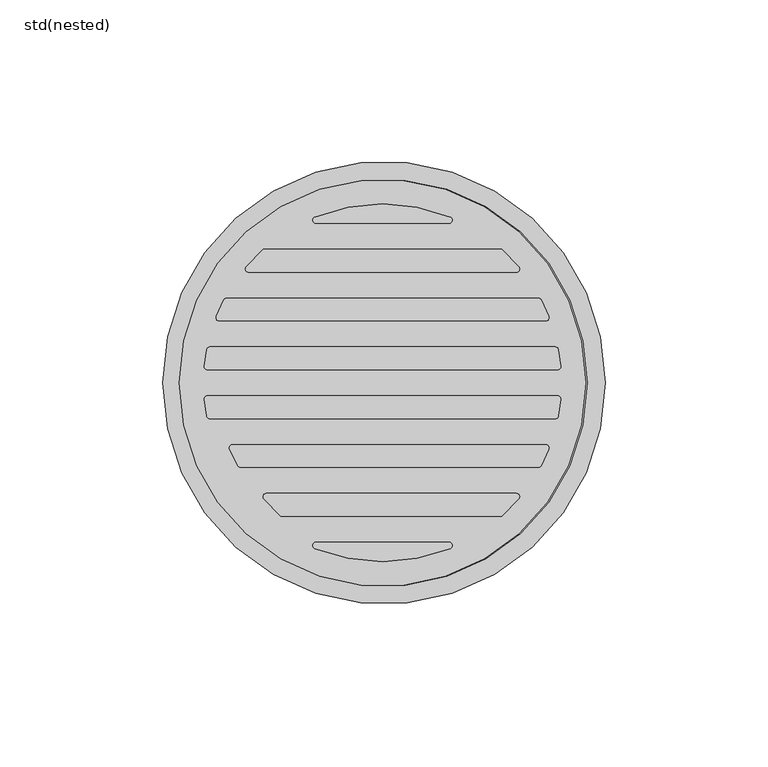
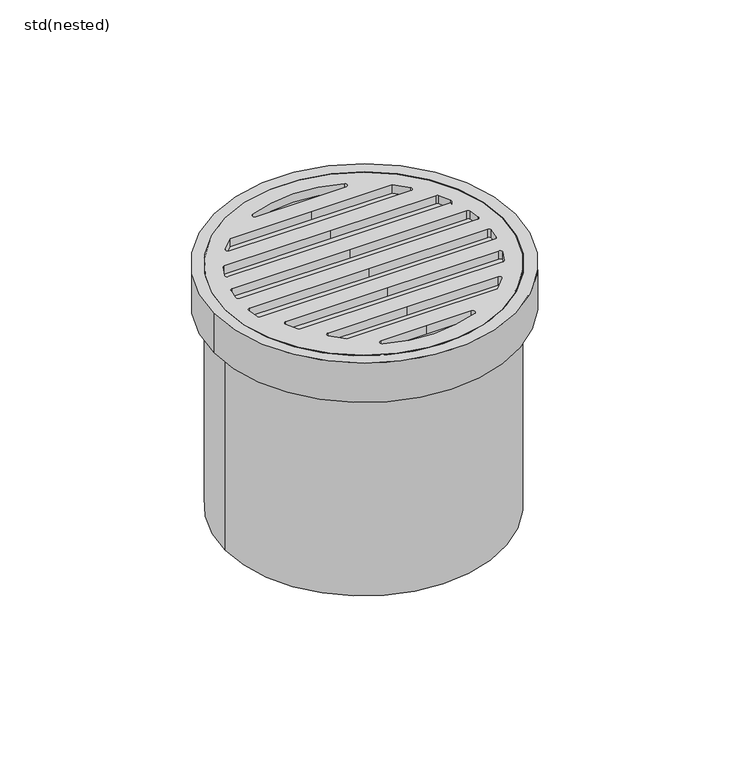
"""IFC4 building model written with IfcOpenShell, lengths in millimetres: sanitary terminal geometry, ZZZ_do_not_use_PF_UN_Top section with grating_ACO : std(nested)."""

from ifc_helpers import new_model, si_unit, point, frame, frame_2d, origin, origin_with_axes, origin_2d, place, context, project, spatial, polyline, circle_curve, trimmed, segment, composite_curve, outline, extrude, source, transform, mapped, element, save
from ifc_brep_helpers import plane_surface, cylinder_surface, revolved_surface, advanced_brep


def std_nested_ec2660e4(model_context):
    return source(origin(), model_context, "Body", "SolidModel", [
        advanced_brep(
        [(-62.5, 0.0, 0.0), (62.5, 0.0, 0.0), (36.6606056, -41.0, 0.0), (0.0, -41.0, 0.0), (-31.2370559, -41.0, 0.0), (-36.459735, -35.6481481, 0.0), (-35.6982207, -34.0, 0.0), (0.0, -34.0, 0.0), (41.1217704, -34.0, 0.0), (41.8832847, -35.6481481, 0.0), (-20.3960781, -49.0, 0.0), (0.0, -49.0, 0.0), (20.3960781, -49.0, 0.0), (20.7737832, -50.9259259, 0.0), (-20.7737832, -50.9259259, 0.0), (47.8643918, -26.0, 0.0), (0.0, -26.0, 0.0), (-43.5831046, -26.0, 0.0), (-44.450529, -25.4975691, 0.0), (-47.0095192, -20.3980553, 0.0), (-46.0921578, -19.0, 0.0), (0.0, -19.0, 0.0), (50.1597448, -19.0, 0.0), (51.088629, -20.3703704, 0.0), (48.7507694, -25.462963, 0.0), (-53.7680202, -4.0, 0.0), (0.0, -4.0, 0.0), (53.7680202, -4.0, 0.0), (54.7637243, -5.0925926, 0.0), (54.0487003, -10.1851852, 0.0), (53.0659966, -11.0, 0.0), (0.0, -11.0, 0.0), (-53.0659966, -11.0, 0.0), (-54.0487003, -10.1851852, 0.0), (-54.7637243, -5.0925926, 0.0), (-47.8643918, 26.0, 0.0), (0.0, 26.0, 0.0), (47.8643918, 26.0, 0.0), (48.7507694, 25.462963, 0.0), (51.088629, 20.3703704, 0.0), (50.1597448, 19.0, 0.0), (0.0, 19.0, 0.0), (-50.1597448, 19.0, 0.0), (-51.088629, 20.3703704, 0.0), (-48.7507694, 25.462963, 0.0), (-53.0659966, 11.0, 0.0), (0.0, 11.0, 0.0), (53.0659966, 11.0, 0.0), (54.0487003, 10.1851852, 0.0), (54.7637243, 5.0925926, 0.0), (53.7680202, 4.0, 0.0), (0.0, 4.0, 0.0), (-53.7680202, 4.0, 0.0), (-54.7637243, 5.0925926, 0.0), (-54.0487003, 10.1851852, 0.0), (-36.6606056, 41.0, 0.0), (0.0, 41.0, 0.0), (36.6606056, 41.0, 0.0), (41.8832847, 35.6481481, 0.0), (41.1217704, 34.0, 0.0), (0.0, 34.0, 0.0), (-41.1217704, 34.0, 0.0), (-41.8832847, 35.6481481, 0.0), (20.3960781, 49.0, 0.0), (0.0, 49.0, 0.0), (-20.3960781, 49.0, 0.0), (-20.7737832, 50.9259259, 0.0), (20.7737832, 50.9259259, 0.0), (-62.5, 0.0, -18.9264101), (62.5, 0.0, -18.9264101), (0.0, -41.0, -3.9337109), (36.6606056, -41.0, -3.9337109), (41.8832847, -35.6481481, -3.9337109), (41.1217704, -34.0, -3.9337109), (0.0, -34.0, -3.9337109), (-35.6982207, -34.0, -3.9337109), (-36.459735, -35.6481481, -3.9337109), (-31.2370559, -41.0, -3.9337109), (0.0, -49.0, -3.9337109), (-20.3960781, -49.0, -3.9337109), (-20.7737832, -50.9259259, -3.9337109), (20.7737832, -50.9259259, -3.9337109), (20.3960781, -49.0, -3.9337109), (0.0, -26.0, -3.9337109), (47.8643918, -26.0, -3.9337109), (48.7507694, -25.462963, -3.9337109), (51.088629, -20.3703704, -3.9337109), (50.1597448, -19.0, -3.9337109), (0.0, -19.0, -3.9337109), (-46.0921578, -19.0, -3.9337109), (-47.0095192, -20.3980553, -3.9337109), (-44.450529, -25.4975691, -3.9337109), (-43.5831046, -26.0, -3.9337109), (0.0, -4.0, -3.9337109), (-53.7680202, -4.0, -3.9337109), (-54.7637243, -5.0925926, -3.9337109), (-54.0487003, -10.1851852, -3.9337109), (-53.0659966, -11.0, -3.9337109), (0.0, -11.0, -3.9337109), (53.0659966, -11.0, -3.9337109), (54.0487003, -10.1851852, -3.9337109), (54.7637243, -5.0925926, -3.9337109), (53.7680202, -4.0, -3.9337109), (0.0, 26.0, -3.9337109), (-47.8643918, 26.0, -3.9337109), (-48.7507694, 25.462963, -3.9337109), (-51.088629, 20.3703704, -3.9337109), (-50.1597448, 19.0, -3.9337109), (0.0, 19.0, -3.9337109), (50.1597448, 19.0, -3.9337109), (51.088629, 20.3703704, -3.9337109), (48.7507694, 25.462963, -3.9337109), (47.8643918, 26.0, -3.9337109), (0.0, 11.0, -3.9337109), (-53.0659966, 11.0, -3.9337109), (-54.0487003, 10.1851852, -3.9337109), (-54.7637243, 5.0925926, -3.9337109), (-53.7680202, 4.0, -3.9337109), (0.0, 4.0, -3.9337109), (53.7680202, 4.0, -3.9337109), (54.7637243, 5.0925926, -3.9337109), (54.0487003, 10.1851852, -3.9337109), (53.0659966, 11.0, -3.9337109), (0.0, 41.0, -3.9337109), (-36.6606056, 41.0, -3.9337109), (-41.8832847, 35.6481481, -3.9337109), (-41.1217704, 34.0, -3.9337109), (0.0, 34.0, -3.9337109), (41.1217704, 34.0, -3.9337109), (41.8832847, 35.6481481, -3.9337109), (36.6606056, 41.0, -3.9337109), (0.0, 49.0, -3.9337109), (20.3960781, 49.0, -3.9337109), (20.7737832, 50.9259259, -3.9337109), (-20.7737832, 50.9259259, -3.9337109), (-20.3960781, 49.0, -3.9337109)],
        [
            (0, 1, circle_curve(origin_with_axes(), 62.5)),
            (1, 0, circle_curve(origin_with_axes(), 62.5)),
            (2, 3),
            (3, 4),
            (4, 5, circle_curve(frame((5.4235497, 0.0, 0.0), z_axis=(0.0, 0.0, -1.0), x_axis=(1.0, 0.0, 0.0)), 55.0)),
            (5, 6, circle_curve(frame((-35.6982207, -35.0, 0.0), z_axis=(0.0, 0.0, -1.0), x_axis=(1.0, 0.0, 0.0)), 1.0)),
            (6, 7),
            (7, 8),
            (8, 9, circle_curve(frame((41.1217704, -35.0, 0.0), z_axis=(0.0, 0.0, -1.0), x_axis=(1.0, 0.0, 0.0)), 1.0)),
            (9, 2, circle_curve(frame((0.0, 0.0, 0.0), z_axis=(0.0, 0.0, -1.0), x_axis=(1.0, 0.0, 0.0)), 55.0)),
            (10, 11),
            (11, 12),
            (12, 13, circle_curve(frame((20.3960781, -50.0, 0.0), z_axis=(0.0, 0.0, -1.0), x_axis=(1.0, 0.0, 0.0)), 1.0)),
            (13, 14, circle_curve(frame((0.0, 0.0, 0.0), z_axis=(0.0, 0.0, -1.0), x_axis=(1.0, 0.0, 0.0)), 55.0)),
            (14, 10, circle_curve(frame((-20.3960781, -50.0, 0.0), z_axis=(0.0, 0.0, -1.0), x_axis=(1.0, 0.0, 0.0)), 1.0)),
            (15, 16),
            (16, 17),
            (17, 18, circle_curve(frame((-43.5831046, -25.0, 0.0), z_axis=(0.0, 0.0, -1.0), x_axis=(1.0, 0.0, 0.0)), 1.0)),
            (18, 19, circle_curve(frame((0.0, 0.0, 0.0), z_axis=(0.0, 0.0, -1.0), x_axis=(1.0, 0.0, 0.0)), 51.2442734)),
            (19, 20, circle_curve(frame((-46.0921578, -20.0, 0.0), z_axis=(0.0, 0.0, -1.0), x_axis=(1.0, 0.0, 0.0)), 1.0)),
            (20, 21),
            (21, 22),
            (22, 23, circle_curve(frame((50.1597448, -20.0, 0.0), z_axis=(0.0, 0.0, -1.0), x_axis=(1.0, 0.0, 0.0)), 1.0)),
            (23, 24, circle_curve(frame((0.0, 0.0, 0.0), z_axis=(0.0, 0.0, -1.0), x_axis=(1.0, 0.0, 0.0)), 55.0)),
            (24, 15, circle_curve(frame((47.8643918, -25.0, 0.0), z_axis=(0.0, 0.0, -1.0), x_axis=(1.0, 0.0, 0.0)), 1.0)),
            (25, 26),
            (26, 27),
            (27, 28, circle_curve(frame((53.7680202, -5.0, 0.0), z_axis=(0.0, 0.0, -1.0), x_axis=(1.0, 0.0, 0.0)), 1.0)),
            (28, 29, circle_curve(frame((0.0, 0.0, 0.0), z_axis=(0.0, 0.0, -1.0), x_axis=(1.0, 0.0, 0.0)), 55.0)),
            (29, 30, circle_curve(frame((53.0659966, -10.0, 0.0), z_axis=(0.0, 0.0, -1.0), x_axis=(1.0, 0.0, 0.0)), 1.0)),
            (30, 31),
            (31, 32),
            (32, 33, circle_curve(frame((-53.0659966, -10.0, 0.0), z_axis=(0.0, 0.0, -1.0), x_axis=(1.0, 0.0, 0.0)), 1.0)),
            (33, 34, circle_curve(frame((0.0, 0.0, 0.0), z_axis=(0.0, 0.0, -1.0), x_axis=(1.0, 0.0, 0.0)), 55.0)),
            (34, 25, circle_curve(frame((-53.7680202, -5.0, 0.0), z_axis=(0.0, 0.0, -1.0), x_axis=(1.0, 0.0, 0.0)), 1.0)),
            (35, 36),
            (36, 37),
            (37, 38, circle_curve(frame((47.8643918, 25.0, 0.0), z_axis=(0.0, 0.0, -1.0), x_axis=(1.0, 0.0, 0.0)), 1.0)),
            (38, 39, circle_curve(frame((0.0, 0.0, 0.0), z_axis=(0.0, 0.0, -1.0), x_axis=(1.0, 0.0, 0.0)), 55.0)),
            (39, 40, circle_curve(frame((50.1597448, 20.0, 0.0), z_axis=(0.0, 0.0, -1.0), x_axis=(1.0, 0.0, 0.0)), 1.0)),
            (40, 41),
            (41, 42),
            (42, 43, circle_curve(frame((-50.1597448, 20.0, 0.0), z_axis=(0.0, 0.0, -1.0), x_axis=(1.0, 0.0, 0.0)), 1.0)),
            (43, 44, circle_curve(frame((0.0, 0.0, 0.0), z_axis=(0.0, 0.0, -1.0), x_axis=(1.0, 0.0, 0.0)), 55.0)),
            (44, 35, circle_curve(frame((-47.8643918, 25.0, 0.0), z_axis=(0.0, 0.0, -1.0), x_axis=(1.0, 0.0, 0.0)), 1.0)),
            (45, 46),
            (46, 47),
            (47, 48, circle_curve(frame((53.0659966, 10.0, 0.0), z_axis=(0.0, 0.0, -1.0), x_axis=(1.0, 0.0, 0.0)), 1.0)),
            (48, 49, circle_curve(frame((0.0, 0.0, 0.0), z_axis=(0.0, 0.0, -1.0), x_axis=(1.0, 0.0, 0.0)), 55.0)),
            (49, 50, circle_curve(frame((53.7680202, 5.0, 0.0), z_axis=(0.0, 0.0, -1.0), x_axis=(1.0, 0.0, 0.0)), 1.0)),
            (50, 51),
            (51, 52),
            (52, 53, circle_curve(frame((-53.7680202, 5.0, 0.0), z_axis=(0.0, 0.0, -1.0), x_axis=(1.0, 0.0, 0.0)), 1.0)),
            (53, 54, circle_curve(frame((0.0, 0.0, 0.0), z_axis=(0.0, 0.0, -1.0), x_axis=(1.0, 0.0, 0.0)), 55.0)),
            (54, 45, circle_curve(frame((-53.0659966, 10.0, 0.0), z_axis=(0.0, 0.0, -1.0), x_axis=(1.0, 0.0, 0.0)), 1.0)),
            (55, 56),
            (56, 57),
            (57, 58, circle_curve(frame((0.0, 0.0, 0.0), z_axis=(0.0, 0.0, -1.0), x_axis=(1.0, 0.0, 0.0)), 55.0)),
            (58, 59, circle_curve(frame((41.1217704, 35.0, 0.0), z_axis=(0.0, 0.0, -1.0), x_axis=(1.0, 0.0, 0.0)), 1.0)),
            (59, 60),
            (60, 61),
            (61, 62, circle_curve(frame((-41.1217704, 35.0, 0.0), z_axis=(0.0, 0.0, -1.0), x_axis=(1.0, 0.0, 0.0)), 1.0)),
            (62, 55, circle_curve(frame((0.0, 0.0, 0.0), z_axis=(0.0, 0.0, -1.0), x_axis=(1.0, 0.0, 0.0)), 55.0)),
            (63, 64),
            (64, 65),
            (65, 66, circle_curve(frame((-20.3960781, 50.0, 0.0), z_axis=(0.0, 0.0, -1.0), x_axis=(1.0, 0.0, 0.0)), 1.0)),
            (66, 67, circle_curve(frame((0.0, 0.0, 0.0), z_axis=(0.0, 0.0, -1.0), x_axis=(1.0, 0.0, 0.0)), 55.0)),
            (67, 63, circle_curve(frame((20.3960781, 50.0, 0.0), z_axis=(0.0, 0.0, -1.0), x_axis=(1.0, 0.0, 0.0)), 1.0)),
            (68, 69, circle_curve(frame((0.0, 0.0, -18.9264101), z_axis=(0.0, 0.0, -1.0), x_axis=(1.0, 0.0, 0.0)), 62.5)),
            (69, 68, circle_curve(frame((0.0, 0.0, -18.9264101), z_axis=(0.0, 0.0, -1.0), x_axis=(1.0, 0.0, 0.0)), 62.5)),
            (0, 68),
            (69, 1),
            (70, 71),
            (71, 72, circle_curve(frame((0.0, 0.0, -3.9337109), z_axis=(0.0, 0.0, 1.0), x_axis=(1.0, 0.0, 0.0)), 55.0)),
            (72, 73, circle_curve(frame((41.1217704, -35.0, -3.9337109), z_axis=(0.0, 0.0, 1.0), x_axis=(1.0, 0.0, 0.0)), 1.0)),
            (73, 74),
            (74, 75),
            (75, 76, circle_curve(frame((-35.6982207, -35.0, -3.9337109), z_axis=(0.0, 0.0, 1.0), x_axis=(1.0, 0.0, 0.0)), 1.0)),
            (76, 77, circle_curve(frame((5.4235497, 0.0, -3.9337109), z_axis=(0.0, 0.0, 1.0), x_axis=(1.0, 0.0, 0.0)), 55.0)),
            (77, 70),
            (78, 79),
            (79, 80, circle_curve(frame((-20.3960781, -50.0, -3.9337109), z_axis=(0.0, 0.0, 1.0), x_axis=(1.0, 0.0, 0.0)), 1.0)),
            (80, 81, circle_curve(frame((0.0, 0.0, -3.9337109), z_axis=(0.0, 0.0, 1.0), x_axis=(1.0, 0.0, 0.0)), 55.0)),
            (81, 82, circle_curve(frame((20.3960781, -50.0, -3.9337109), z_axis=(0.0, 0.0, 1.0), x_axis=(1.0, 0.0, 0.0)), 1.0)),
            (82, 78),
            (83, 84),
            (84, 85, circle_curve(frame((47.8643918, -25.0, -3.9337109), z_axis=(0.0, 0.0, 1.0), x_axis=(1.0, 0.0, 0.0)), 1.0)),
            (85, 86, circle_curve(frame((0.0, 0.0, -3.9337109), z_axis=(0.0, 0.0, 1.0), x_axis=(1.0, 0.0, 0.0)), 55.0)),
            (86, 87, circle_curve(frame((50.1597448, -20.0, -3.9337109), z_axis=(0.0, 0.0, 1.0), x_axis=(1.0, 0.0, 0.0)), 1.0)),
            (87, 88),
            (88, 89),
            (89, 90, circle_curve(frame((-46.0921578, -20.0, -3.9337109), z_axis=(0.0, 0.0, 1.0), x_axis=(1.0, 0.0, 0.0)), 1.0)),
            (90, 91, circle_curve(frame((0.0, 0.0, -3.9337109), z_axis=(0.0, 0.0, 1.0), x_axis=(1.0, 0.0, 0.0)), 51.2442734)),
            (91, 92, circle_curve(frame((-43.5831046, -25.0, -3.9337109), z_axis=(0.0, 0.0, 1.0), x_axis=(1.0, 0.0, 0.0)), 1.0)),
            (92, 83),
            (93, 94),
            (94, 95, circle_curve(frame((-53.7680202, -5.0, -3.9337109), z_axis=(0.0, 0.0, 1.0), x_axis=(1.0, 0.0, 0.0)), 1.0)),
            (95, 96, circle_curve(frame((0.0, 0.0, -3.9337109), z_axis=(0.0, 0.0, 1.0), x_axis=(1.0, 0.0, 0.0)), 55.0)),
            (96, 97, circle_curve(frame((-53.0659966, -10.0, -3.9337109), z_axis=(0.0, 0.0, 1.0), x_axis=(1.0, 0.0, 0.0)), 1.0)),
            (97, 98),
            (98, 99),
            (99, 100, circle_curve(frame((53.0659966, -10.0, -3.9337109), z_axis=(0.0, 0.0, 1.0), x_axis=(1.0, 0.0, 0.0)), 1.0)),
            (100, 101, circle_curve(frame((0.0, 0.0, -3.9337109), z_axis=(0.0, 0.0, 1.0), x_axis=(1.0, 0.0, 0.0)), 55.0)),
            (101, 102, circle_curve(frame((53.7680202, -5.0, -3.9337109), z_axis=(0.0, 0.0, 1.0), x_axis=(1.0, 0.0, 0.0)), 1.0)),
            (102, 93),
            (103, 104),
            (104, 105, circle_curve(frame((-47.8643918, 25.0, -3.9337109), z_axis=(0.0, 0.0, 1.0), x_axis=(1.0, 0.0, 0.0)), 1.0)),
            (105, 106, circle_curve(frame((0.0, 0.0, -3.9337109), z_axis=(0.0, 0.0, 1.0), x_axis=(1.0, 0.0, 0.0)), 55.0)),
            (106, 107, circle_curve(frame((-50.1597448, 20.0, -3.9337109), z_axis=(0.0, 0.0, 1.0), x_axis=(1.0, 0.0, 0.0)), 1.0)),
            (107, 108),
            (108, 109),
            (109, 110, circle_curve(frame((50.1597448, 20.0, -3.9337109), z_axis=(0.0, 0.0, 1.0), x_axis=(1.0, 0.0, 0.0)), 1.0)),
            (110, 111, circle_curve(frame((0.0, 0.0, -3.9337109), z_axis=(0.0, 0.0, 1.0), x_axis=(1.0, 0.0, 0.0)), 55.0)),
            (111, 112, circle_curve(frame((47.8643918, 25.0, -3.9337109), z_axis=(0.0, 0.0, 1.0), x_axis=(1.0, 0.0, 0.0)), 1.0)),
            (112, 103),
            (113, 114),
            (114, 115, circle_curve(frame((-53.0659966, 10.0, -3.9337109), z_axis=(0.0, 0.0, 1.0), x_axis=(1.0, 0.0, 0.0)), 1.0)),
            (115, 116, circle_curve(frame((0.0, 0.0, -3.9337109), z_axis=(0.0, 0.0, 1.0), x_axis=(1.0, 0.0, 0.0)), 55.0)),
            (116, 117, circle_curve(frame((-53.7680202, 5.0, -3.9337109), z_axis=(0.0, 0.0, 1.0), x_axis=(1.0, 0.0, 0.0)), 1.0)),
            (117, 118),
            (118, 119),
            (119, 120, circle_curve(frame((53.7680202, 5.0, -3.9337109), z_axis=(0.0, 0.0, 1.0), x_axis=(1.0, 0.0, 0.0)), 1.0)),
            (120, 121, circle_curve(frame((0.0, 0.0, -3.9337109), z_axis=(0.0, 0.0, 1.0), x_axis=(1.0, 0.0, 0.0)), 55.0)),
            (121, 122, circle_curve(frame((53.0659966, 10.0, -3.9337109), z_axis=(0.0, 0.0, 1.0), x_axis=(1.0, 0.0, 0.0)), 1.0)),
            (122, 113),
            (123, 124),
            (124, 125, circle_curve(frame((0.0, 0.0, -3.9337109), z_axis=(0.0, 0.0, 1.0), x_axis=(1.0, 0.0, 0.0)), 55.0)),
            (125, 126, circle_curve(frame((-41.1217704, 35.0, -3.9337109), z_axis=(0.0, 0.0, 1.0), x_axis=(1.0, 0.0, 0.0)), 1.0)),
            (126, 127),
            (127, 128),
            (128, 129, circle_curve(frame((41.1217704, 35.0, -3.9337109), z_axis=(0.0, 0.0, 1.0), x_axis=(1.0, 0.0, 0.0)), 1.0)),
            (129, 130, circle_curve(frame((0.0, 0.0, -3.9337109), z_axis=(0.0, 0.0, 1.0), x_axis=(1.0, 0.0, 0.0)), 55.0)),
            (130, 123),
            (131, 132),
            (132, 133, circle_curve(frame((20.3960781, 50.0, -3.9337109), z_axis=(0.0, 0.0, 1.0), x_axis=(1.0, 0.0, 0.0)), 1.0)),
            (133, 134, circle_curve(frame((0.0, 0.0, -3.9337109), z_axis=(0.0, 0.0, 1.0), x_axis=(1.0, 0.0, 0.0)), 55.0)),
            (134, 135, circle_curve(frame((-20.3960781, 50.0, -3.9337109), z_axis=(0.0, 0.0, 1.0), x_axis=(1.0, 0.0, 0.0)), 1.0)),
            (135, 131),
            (70, 3),
            (2, 71),
            (9, 72),
            (8, 73),
            (7, 74),
            (6, 75),
            (5, 76),
            (4, 77),
            (78, 11),
            (10, 79),
            (14, 80),
            (13, 81),
            (12, 82),
            (83, 16),
            (15, 84),
            (24, 85),
            (23, 86),
            (22, 87),
            (21, 88),
            (20, 89),
            (19, 90),
            (18, 91),
            (17, 92),
            (93, 26),
            (25, 94),
            (34, 95),
            (33, 96),
            (32, 97),
            (31, 98),
            (30, 99),
            (29, 100),
            (28, 101),
            (27, 102),
            (103, 36),
            (35, 104),
            (44, 105),
            (43, 106),
            (42, 107),
            (41, 108),
            (40, 109),
            (39, 110),
            (38, 111),
            (37, 112),
            (113, 46),
            (45, 114),
            (54, 115),
            (53, 116),
            (52, 117),
            (51, 118),
            (50, 119),
            (49, 120),
            (48, 121),
            (47, 122),
            (123, 56),
            (55, 124),
            (62, 125),
            (61, 126),
            (60, 127),
            (59, 128),
            (58, 129),
            (57, 130),
            (131, 64),
            (63, 132),
            (67, 133),
            (66, 134),
            (65, 135),
        ],
        [
            plane_surface(frame((62.5, 0.0, 0.0), z_axis=(0.0, 0.0, 1.0), x_axis=(0.0, 1.0, 0.0))),
            plane_surface(frame((62.5, 0.0, -18.9264101), z_axis=(0.0, 0.0, -1.0), x_axis=(0.0, -1.0, 0.0))),
            cylinder_surface(frame((0.0, 0.0, -18.9264101), z_axis=(0.0, 0.0, 1.0), x_axis=(1.0, 0.0, 0.0)), 62.5),
            plane_surface(frame((36.2767143, -41.0, -3.9337109), z_axis=(0.0, 0.0, 1.0), x_axis=(-1.0, 0.0, 0.0))),
            plane_surface(frame((0.0, -41.0, 0.0), z_axis=(0.0, 1.0, 0.0), x_axis=(0.0, 0.0, -1.0))),
            revolved_surface(polyline([(55.0, 0.0, 0.0), (55.0, 0.0, -3.9337109)]), (0.0, 0.0, -3.9337109), (0.0, 0.0, 1.0)),
            revolved_surface(polyline([(42.1217704, -35.0, 0.0), (42.1217704, -35.0, -3.9337109)]), (41.1217704, -35.0, -3.9337109), (0.0, 0.0, 1.0)),
            plane_surface(frame((41.1217704, -34.0, 0.0), z_axis=(0.0, -1.0, 0.0), x_axis=(0.0, 0.0, -1.0))),
            plane_surface(frame((0.0, -34.0, 0.0), z_axis=(0.0, -1.0, 0.0), x_axis=(0.0, 0.0, -1.0))),
            revolved_surface(polyline([(-34.6982207, -35.0, 0.0), (-34.6982207, -35.0, -3.9337109)]), (-35.6982207, -35.0, -3.9337109), (0.0, 0.0, 1.0)),
            revolved_surface(polyline([(60.4235497, 0.0, 0.0), (60.4235497, 0.0, -3.9337109)]), (5.4235497, 0.0, -3.9337109), (0.0, 0.0, 1.0)),
            plane_surface(frame((-31.2370559, -41.0, 0.0), z_axis=(0.0, 1.0, 0.0), x_axis=(0.0, 0.0, -1.0))),
            plane_surface(frame((0.0, -49.0, 0.0), z_axis=(0.0, -1.0, 0.0), x_axis=(0.0, 0.0, -1.0))),
            revolved_surface(polyline([(-19.3960781, -50.0, 0.0), (-19.3960781, -50.0, -3.9337109)]), (-20.3960781, -50.0, 0.0), (0.0, 0.0, 1.0)),
            revolved_surface(polyline([(55.0, 0.0, 0.0), (55.0, 0.0, -3.9337109)]), (0.0, 0.0, 0.0), (0.0, 0.0, 1.0)),
            revolved_surface(polyline([(21.3960781, -50.0, 0.0), (21.3960781, -50.0, -3.9337109)]), (20.3960781, -50.0, 0.0), (0.0, 0.0, 1.0)),
            plane_surface(frame((20.3960781, -49.0, 0.0), z_axis=(0.0, -1.0, 0.0), x_axis=(0.0, 0.0, -1.0))),
            plane_surface(frame((0.0, -26.0, 0.0), z_axis=(0.0, 1.0, 0.0), x_axis=(0.0, 0.0, -1.0))),
            revolved_surface(polyline([(48.8643918, -25.0, 0.0), (48.8643918, -25.0, -3.9337109)]), (47.8643918, -25.0, 0.0), (0.0, 0.0, 1.0)),
            revolved_surface(polyline([(51.1597448, -20.0, 0.0), (51.1597448, -20.0, -3.9337109)]), (50.1597448, -20.0, 0.0), (0.0, 0.0, 1.0)),
            plane_surface(frame((50.1597448, -19.0, 0.0), z_axis=(0.0, -1.0, 0.0), x_axis=(0.0, 0.0, -1.0))),
            plane_surface(frame((0.0, -19.0, 0.0), z_axis=(0.0, -1.0, 0.0), x_axis=(0.0, 0.0, -1.0))),
            revolved_surface(polyline([(-45.0921578, -20.0, 0.0), (-45.0921578, -20.0, -3.9337109)]), (-46.0921578, -20.0, 0.0), (0.0, 0.0, 1.0)),
            revolved_surface(polyline([(51.2442734, 0.0, 0.0), (51.2442734, 0.0, -3.9337109)]), (0.0, 0.0, 0.0), (0.0, 0.0, 1.0)),
            revolved_surface(polyline([(-42.5831046, -25.0, 0.0), (-42.5831046, -25.0, -3.9337109)]), (-43.5831046, -25.0, 0.0), (0.0, 0.0, 1.0)),
            plane_surface(frame((-43.5831046, -26.0, 0.0), z_axis=(0.0, 1.0, 0.0), x_axis=(0.0, 0.0, -1.0))),
            plane_surface(frame((0.0, -4.0, 0.0), z_axis=(0.0, -1.0, 0.0), x_axis=(0.0, 0.0, -1.0))),
            revolved_surface(polyline([(-52.7680202, -5.0, 0.0), (-52.7680202, -5.0, -3.9337109)]), (-53.7680202, -5.0, 0.0), (0.0, 0.0, 1.0)),
            revolved_surface(polyline([(-52.0659966, -10.0, 0.0), (-52.0659966, -10.0, -3.9337109)]), (-53.0659966, -10.0, 0.0), (0.0, 0.0, 1.0)),
            plane_surface(frame((-53.0659966, -11.0, 0.0), z_axis=(0.0, 1.0, 0.0), x_axis=(0.0, 0.0, -1.0))),
            plane_surface(frame((0.0, -11.0, 0.0), z_axis=(0.0, 1.0, 0.0), x_axis=(0.0, 0.0, -1.0))),
            revolved_surface(polyline([(54.0659966, -10.0, 0.0), (54.0659966, -10.0, -3.9337109)]), (53.0659966, -10.0, 0.0), (0.0, 0.0, 1.0)),
            revolved_surface(polyline([(54.7680202, -5.0, 0.0), (54.7680202, -5.0, -3.9337109)]), (53.7680202, -5.0, 0.0), (0.0, 0.0, 1.0)),
            plane_surface(frame((53.7680202, -4.0, 0.0), z_axis=(0.0, -1.0, 0.0), x_axis=(0.0, 0.0, -1.0))),
            plane_surface(frame((0.0, 26.0, 0.0), z_axis=(0.0, -1.0, 0.0), x_axis=(0.0, 0.0, -1.0))),
            revolved_surface(polyline([(-46.8643918, 25.0, 0.0), (-46.8643918, 25.0, -3.9337109)]), (-47.8643918, 25.0, 0.0), (0.0, 0.0, 1.0)),
            revolved_surface(polyline([(-49.1597448, 20.0, 0.0), (-49.1597448, 20.0, -3.9337109)]), (-50.1597448, 20.0, 0.0), (0.0, 0.0, 1.0)),
            plane_surface(frame((-50.1597448, 19.0, 0.0), z_axis=(0.0, 1.0, 0.0), x_axis=(0.0, 0.0, -1.0))),
            plane_surface(frame((0.0, 19.0, 0.0), z_axis=(0.0, 1.0, 0.0), x_axis=(0.0, 0.0, -1.0))),
            revolved_surface(polyline([(51.1597448, 20.0, 0.0), (51.1597448, 20.0, -3.9337109)]), (50.1597448, 20.0, 0.0), (0.0, 0.0, 1.0)),
            revolved_surface(polyline([(48.8643918, 25.0, 0.0), (48.8643918, 25.0, -3.9337109)]), (47.8643918, 25.0, 0.0), (0.0, 0.0, 1.0)),
            plane_surface(frame((47.8643918, 26.0, 0.0), z_axis=(0.0, -1.0, 0.0), x_axis=(0.0, 0.0, -1.0))),
            plane_surface(frame((0.0, 11.0, 0.0), z_axis=(0.0, -1.0, 0.0), x_axis=(0.0, 0.0, -1.0))),
            revolved_surface(polyline([(-52.0659966, 10.0, 0.0), (-52.0659966, 10.0, -3.9337109)]), (-53.0659966, 10.0, 0.0), (0.0, 0.0, 1.0)),
            revolved_surface(polyline([(-52.7680202, 5.0, 0.0), (-52.7680202, 5.0, -3.9337109)]), (-53.7680202, 5.0, 0.0), (0.0, 0.0, 1.0)),
            plane_surface(frame((-53.7680202, 4.0, 0.0), z_axis=(0.0, 1.0, 0.0), x_axis=(0.0, 0.0, -1.0))),
            plane_surface(frame((0.0, 4.0, 0.0), z_axis=(0.0, 1.0, 0.0), x_axis=(0.0, 0.0, -1.0))),
            revolved_surface(polyline([(54.7680202, 5.0, 0.0), (54.7680202, 5.0, -3.9337109)]), (53.7680202, 5.0, 0.0), (0.0, 0.0, 1.0)),
            revolved_surface(polyline([(54.0659966, 10.0, 0.0), (54.0659966, 10.0, -3.9337109)]), (53.0659966, 10.0, 0.0), (0.0, 0.0, 1.0)),
            plane_surface(frame((53.0659966, 11.0, 0.0), z_axis=(0.0, -1.0, 0.0), x_axis=(0.0, 0.0, -1.0))),
            plane_surface(frame((0.0, 41.0, 0.0), z_axis=(0.0, -1.0, 0.0), x_axis=(0.0, 0.0, -1.0))),
            revolved_surface(polyline([(-40.1217704, 35.0, 0.0), (-40.1217704, 35.0, -3.9337109)]), (-41.1217704, 35.0, 0.0), (0.0, 0.0, 1.0)),
            plane_surface(frame((-41.1217704, 34.0, 0.0), z_axis=(0.0, 1.0, 0.0), x_axis=(0.0, 0.0, -1.0))),
            plane_surface(frame((0.0, 34.0, 0.0), z_axis=(0.0, 1.0, 0.0), x_axis=(0.0, 0.0, -1.0))),
            revolved_surface(polyline([(42.1217704, 35.0, 0.0), (42.1217704, 35.0, -3.9337109)]), (41.1217704, 35.0, 0.0), (0.0, 0.0, 1.0)),
            plane_surface(frame((36.6606056, 41.0, 0.0), z_axis=(0.0, -1.0, 0.0), x_axis=(0.0, 0.0, -1.0))),
            plane_surface(frame((0.0, 49.0, 0.0), z_axis=(0.0, 1.0, 0.0), x_axis=(0.0, 0.0, -1.0))),
            revolved_surface(polyline([(21.3960781, 50.0, 0.0), (21.3960781, 50.0, -3.9337109)]), (20.3960781, 50.0, 0.0), (0.0, 0.0, 1.0)),
            revolved_surface(polyline([(-19.3960781, 50.0, 0.0), (-19.3960781, 50.0, -3.9337109)]), (-20.3960781, 50.0, 0.0), (0.0, 0.0, 1.0)),
            plane_surface(frame((-20.3960781, 49.0, 0.0), z_axis=(0.0, 1.0, 0.0), x_axis=(0.0, 0.0, -1.0))),
        ],
        [
            (0, [[1, 2], [3, 4, 5, 6, 7, 8, 9, 10], [11, 12, 13, 14, 15], [16, 17, 18, 19, 20, 21, 22, 23, 24, 25], [26, 27, 28, 29, 30, 31, 32, 33, 34, 35], [36, 37, 38, 39, 40, 41, 42, 43, 44, 45], [46, 47, 48, 49, 50, 51, 52, 53, 54, 55], [56, 57, 58, 59, 60, 61, 62, 63], [64, 65, 66, 67, 68]]),
            (1, [[69, 70]]),
            (2, [[-1, 71, -70, 72]]),
            (2, [[-2, -72, -69, -71]]),
            (3, [[73, 74, 75, 76, 77, 78, 79, 80]]),
            (3, [[81, 82, 83, 84, 85]]),
            (3, [[86, 87, 88, 89, 90, 91, 92, 93, 94, 95]]),
            (3, [[96, 97, 98, 99, 100, 101, 102, 103, 104, 105]]),
            (3, [[106, 107, 108, 109, 110, 111, 112, 113, 114, 115]]),
            (3, [[116, 117, 118, 119, 120, 121, 122, 123, 124, 125]]),
            (3, [[126, 127, 128, 129, 130, 131, 132, 133]]),
            (3, [[134, 135, 136, 137, 138]]),
            (4, [[-73, 139, -3, 140]]),
            (5, [[-74, -140, -10, 141]]),
            (6, [[-75, -141, -9, 142]]),
            (7, [[-76, -142, -8, 143]]),
            (8, [[-77, -143, -7, 144]]),
            (9, [[-78, -144, -6, 145]]),
            (10, [[-79, -145, -5, 146]]),
            (11, [[-80, -146, -4, -139]]),
            (12, [[-81, 147, -11, 148]]),
            (13, [[-82, -148, -15, 149]]),
            (14, [[-83, -149, -14, 150]]),
            (15, [[-84, -150, -13, 151]]),
            (16, [[-85, -151, -12, -147]]),
            (17, [[-86, 152, -16, 153]]),
            (18, [[-87, -153, -25, 154]]),
            (14, [[-88, -154, -24, 155]]),
            (19, [[-89, -155, -23, 156]]),
            (20, [[-90, -156, -22, 157]]),
            (21, [[-91, -157, -21, 158]]),
            (22, [[-92, -158, -20, 159]]),
            (23, [[-93, -159, -19, 160]]),
            (24, [[-94, -160, -18, 161]]),
            (25, [[-95, -161, -17, -152]]),
            (26, [[-96, 162, -26, 163]]),
            (27, [[-97, -163, -35, 164]]),
            (14, [[-98, -164, -34, 165]]),
            (28, [[-99, -165, -33, 166]]),
            (29, [[-100, -166, -32, 167]]),
            (30, [[-101, -167, -31, 168]]),
            (31, [[-102, -168, -30, 169]]),
            (14, [[-103, -169, -29, 170]]),
            (32, [[-104, -170, -28, 171]]),
            (33, [[-105, -171, -27, -162]]),
            (34, [[-106, 172, -36, 173]]),
            (35, [[-107, -173, -45, 174]]),
            (14, [[-108, -174, -44, 175]]),
            (36, [[-109, -175, -43, 176]]),
            (37, [[-110, -176, -42, 177]]),
            (38, [[-111, -177, -41, 178]]),
            (39, [[-112, -178, -40, 179]]),
            (14, [[-113, -179, -39, 180]]),
            (40, [[-114, -180, -38, 181]]),
            (41, [[-115, -181, -37, -172]]),
            (42, [[-116, 182, -46, 183]]),
            (43, [[-117, -183, -55, 184]]),
            (14, [[-118, -184, -54, 185]]),
            (44, [[-119, -185, -53, 186]]),
            (45, [[-120, -186, -52, 187]]),
            (46, [[-121, -187, -51, 188]]),
            (47, [[-122, -188, -50, 189]]),
            (14, [[-123, -189, -49, 190]]),
            (48, [[-124, -190, -48, 191]]),
            (49, [[-125, -191, -47, -182]]),
            (50, [[-126, 192, -56, 193]]),
            (14, [[-127, -193, -63, 194]]),
            (51, [[-128, -194, -62, 195]]),
            (52, [[-129, -195, -61, 196]]),
            (53, [[-130, -196, -60, 197]]),
            (54, [[-131, -197, -59, 198]]),
            (14, [[-132, -198, -58, 199]]),
            (55, [[-133, -199, -57, -192]]),
            (56, [[-134, 200, -64, 201]]),
            (57, [[-135, -201, -68, 202]]),
            (14, [[-136, -202, -67, 203]]),
            (58, [[-137, -203, -66, 204]]),
            (59, [[-138, -204, -65, -200]]),
        ],
    ),
        extrude(outline(composite_curve([segment(trimmed(circle_curve(frame_2d((0.4551369, 0.0)), 68.0), [point((-67.5448631, 0.0))], [point((68.4551369, 0.0))], False, "CARTESIAN"), True, "CONTINUOUS"), segment(trimmed(circle_curve(frame_2d((0.4551369, 0.0)), 68.0), [point((68.4551369, 0.0))], [point((-67.5448631, 0.0))], False, "CARTESIAN"), True, "CONTINUOUS")], self_intersect=False), holes=[composite_curve([segment(trimmed(circle_curve(frame_2d((0.4551369, 0.0)), 62.5), [point((-62.0448631, 0.0))], [point((62.9551369, 0.0))], True, "CARTESIAN"), True, "CONTINUOUS"), segment(trimmed(circle_curve(frame_2d((0.4551369, 0.0)), 62.5), [point((62.9551369, 0.0))], [point((-62.0448631, 0.0))], True, "CARTESIAN"), True, "CONTINUOUS")], self_intersect=False)]), frame((0.0, 0.0, -18.9264101), z_axis=(0.0, 0.0, 1.0), x_axis=(1.0, 0.0, 0.0)), (0.0, 0.0, 1.0), 18.9264101),
        extrude(outline(composite_curve([segment(trimmed(circle_curve(origin_2d(), 62.5), [point((-62.5, 0.0))], [point((62.5, 0.0))], False, "CARTESIAN"), True, "CONTINUOUS"), segment(trimmed(circle_curve(origin_2d(), 62.5), [point((62.5, 0.0))], [point((-62.5, 0.0))], False, "CARTESIAN"), True, "CONTINUOUS")], self_intersect=False), holes=[composite_curve([segment(trimmed(circle_curve(origin_2d(), 60.5), [point((-60.5, 0.0))], [point((60.5, 0.0))], True, "CARTESIAN"), True, "CONTINUOUS"), segment(trimmed(circle_curve(origin_2d(), 60.5), [point((60.5, 0.0))], [point((-60.5, 0.0))], True, "CARTESIAN"), True, "CONTINUOUS")], self_intersect=False)]), frame((0.0, 0.0, -115.0), z_axis=(0.0, 0.0, 1.0), x_axis=(1.0, 0.0, 0.0)), (0.0, 0.0, 1.0), 100.0),
    ])


if __name__ == "__main__":
    model = new_model("IFC4")
    model_context = context("Model", 3, world=origin())
    ifc_project = project(units=[si_unit("LENGTHUNIT", "METRE", prefix="MILLI")], contexts=[model_context])
    site = spatial("IfcSite", under=ifc_project)
    building = spatial("IfcBuilding", under=site)
    placement = place(None, origin())
    std_nested_shape = std_nested_ec2660e4(model_context)
    element("IfcSanitaryTerminal", 1, ObjectType="ZZZ_do_not_use_PF_UN_Top section with grating_ACO : std(nested)", at=placement, inside=building, context=model_context, shape_type="MappedRepresentation", body=[
        mapped(std_nested_shape, transform((0.0, 0.0, 0.0), x_axis=(1.0, 0.0, 0.0), y_axis=(0.0, 1.0, 0.0), z_axis=(0.0, 0.0, 1.0))),
    ])
    save(model, "model.ifc")
